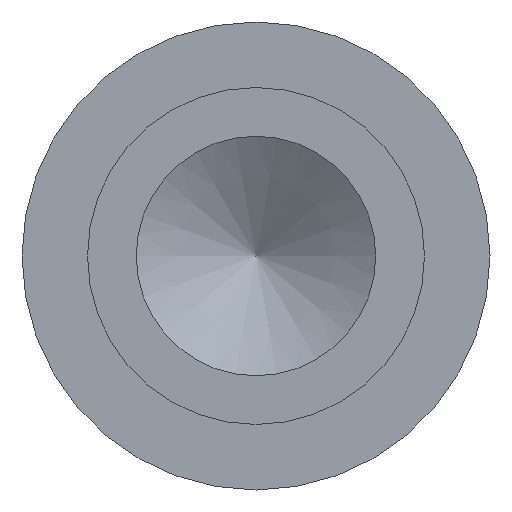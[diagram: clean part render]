
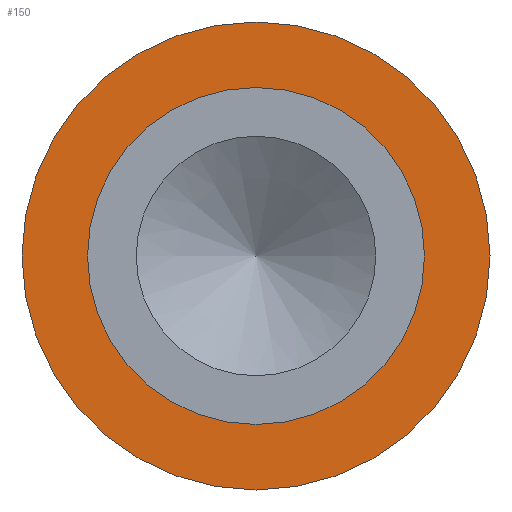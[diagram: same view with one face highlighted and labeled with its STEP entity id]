
A CAD part, left-side view. The second image highlights one B-rep face of the part: STEP entity #150.
In plain terms, the highlighted planar face has unit normal (-1, 0, 0).
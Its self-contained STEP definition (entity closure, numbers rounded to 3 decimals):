
#14=PLANE($,#174);
#23=FACE_BOUND($,#62,.T.);
#46=FACE_OUTER_BOUND($,#61,.T.);
#61=EDGE_LOOP($,(#126));
#62=EDGE_LOOP($,(#127));
#82=CIRCLE($,#172,1.143);
#84=CIRCLE($,#175,1.588);
#95=VERTEX_POINT($,#261);
#97=VERTEX_POINT($,#266);
#108=EDGE_CURVE($,#95,#95,#82,.T.);
#110=EDGE_CURVE($,#97,#97,#84,.T.);
#126=ORIENTED_EDGE($,*,*,#110,.F.);
#127=ORIENTED_EDGE($,*,*,#108,.T.);
#150=ADVANCED_FACE($,(#46,#23),#14,.T.);
#172=AXIS2_PLACEMENT_3D($,#262,#212,#213);
#174=AXIS2_PLACEMENT_3D($,#265,#216,#217);
#175=AXIS2_PLACEMENT_3D($,#267,#218,#219);
#212=DIRECTION('center_axis',(1.,0.,0.));
#213=DIRECTION('ref_axis',(0.,1.,0.));
#216=DIRECTION('center_axis',(-1.,0.,0.));
#217=DIRECTION('ref_axis',(0.,0.,1.));
#218=DIRECTION('center_axis',(1.,0.,0.));
#219=DIRECTION('ref_axis',(0.,1.,0.));
#261=CARTESIAN_POINT('',(1.98,1.143,0.));
#262=CARTESIAN_POINT('Origin',(1.98,0.,0.));
#265=CARTESIAN_POINT('Origin',(1.98,1.365,0.));
#266=CARTESIAN_POINT('',(1.98,1.588,0.));
#267=CARTESIAN_POINT('Origin',(1.98,0.,0.));
